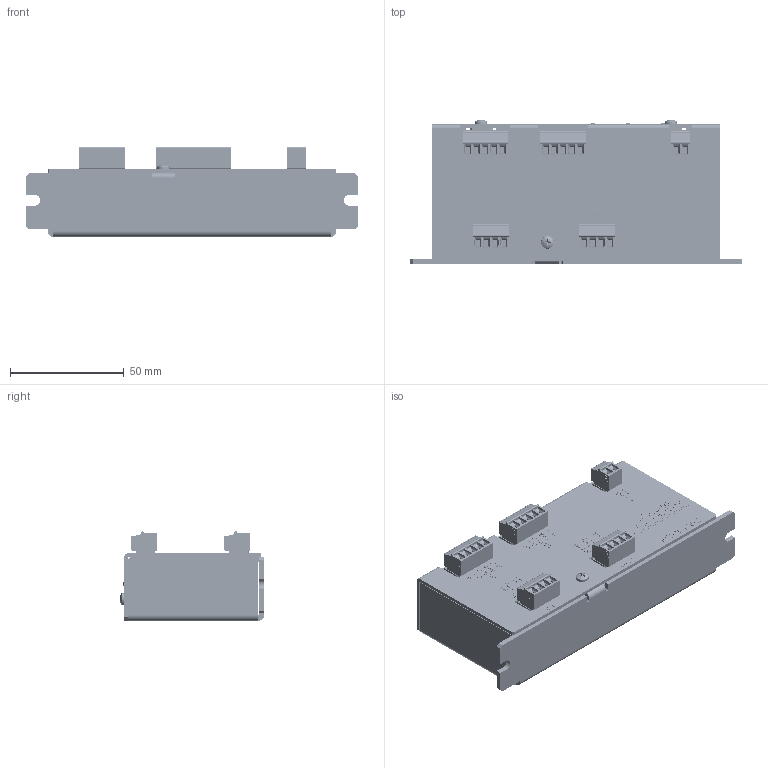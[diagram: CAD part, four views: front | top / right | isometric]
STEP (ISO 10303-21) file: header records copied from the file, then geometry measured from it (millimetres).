
FILE_DESCRIPTION (( 'STEP AP214' ), '1' );
FILE_NAME ('MBC032562.STEP', '2018-10-04T20:26:00', ( '' ), ( '' ), 'SwSTEP 2.0', 'SolidWorks 2018', '' );
FILE_SCHEMA (( 'AUTOMOTIVE_DESIGN' ));
Length unit declared in the file: inch
Products named in the file (25): MBC032562; CON-929834-01-03; SWT-BP05YT_SWT-BP05YT; LED-RA Series_LED-0005; LED-RA Series_LED-0002; 14 pin IC DIP Socket; 14 pin IC DIP Socket_korpus plastykowy; 14 pin IC DIP Socket_ko_X2_0144_X0_c_S_swka lutownicza; POT-0010; CAP-0174; CAP-0144; 1803426; 1803442; 1803604; 1803455; 1803594; AA6736PCB; 1803578; Base Plate, MBC032562 with spacers; 11pan cross head_ai_CR-PHMS 0.112-40x0.25x0.25-S; 10thru-hole standoff_pmi_PEM SO-440-24 ZI--S; Cover, MBC032562; 11pan cross head_ai_CR-PHMS 0.112-40x0.5x0.5-S; Base Plate, MBC032562; SUB-AA6736-1
Assembly tree (54 placements, depth 4):
  MBC032562
    Base Plate, MBC032562 with spacers
      Base Plate, MBC032562
      10thru-hole standoff_pmi_PEM SO-440-24 ZI--S  x4
    SUB-AA6736-1
      AA6736PCB
      1803455  x2
      1803442  x2
      1803426
      CAP-0144  x2
      CAP-0174
      POT-0010  x2
      14 pin IC DIP Socket  x2
        14 pin IC DIP Socket_ko_X2_0144_X0_c_S_swka lutownicza
        14 pin IC DIP Socket_korpus plastykowy
      LED-RA Series_LED-0002
      LED-RA Series_LED-0005  x2
      SWT-BP05YT_SWT-BP05YT
      CON-929834-01-03  x2
    11pan cross head_ai_CR-PHMS 0.112-40x0.5x0.5-S  x4
    Cover, MBC032562
    11pan cross head_ai_CR-PHMS 0.112-40x0.25x0.25-S  x3
    1803578
    1803594  x2
    1803604  x2
Bounding box: 146.05 x 63.46 x 39.34 mm (x, y, z)
Volume: 75549.3 mm3; surface area: 88423.5 mm2
Topology: 65 solids, 65 shells, 8896 faces, 22928 edges, 14732 vertices
Faces by surface type: plane 4649, cylinder 1701, bspline 1523, cone 950, torus 56, sphere 17
Entity records: 319289 total; most frequent: CARTESIAN_POINT 104528, ORIENTED_EDGE 31590, DIRECTION 24169, EDGE_CURVE 15795, LINE 10615, VECTOR 10615, VERTEX_POINT 10349, AXIS2_PLACEMENT_3D 6777
